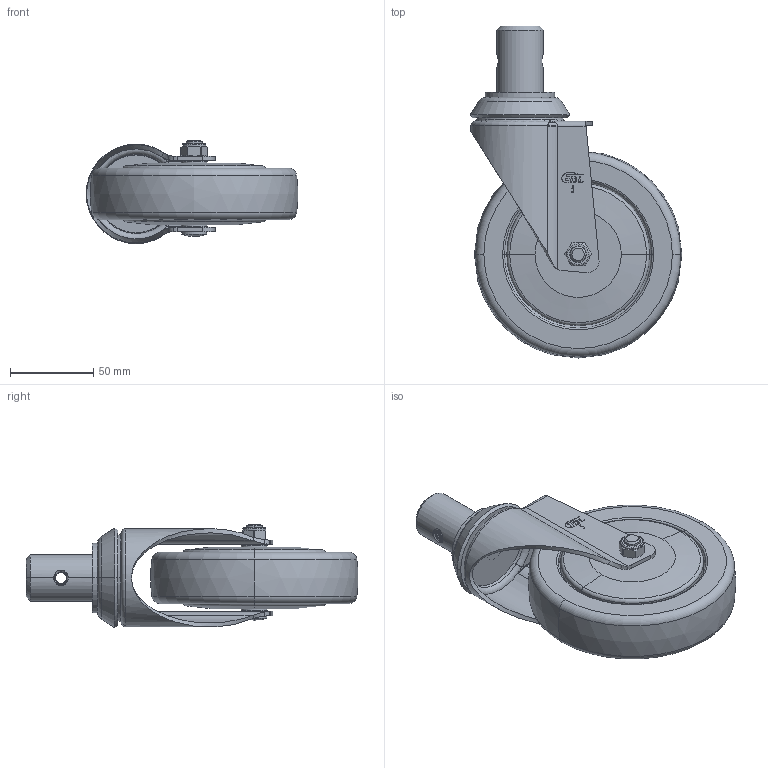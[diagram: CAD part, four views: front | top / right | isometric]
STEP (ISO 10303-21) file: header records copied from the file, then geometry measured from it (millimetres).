
FILE_DESCRIPTION((''),'2;1');
FILE_NAME('57255-575-77_ASM','2021-01-05T',('lenovo'),(''),'PRO/ENGINEER BY PARAMETRIC TECHNOLOGY CORPORATION, 2010280','PRO/ENGINEER BY PARAMETRIC TECHNOLOGY CORPORATION, 2010280','');
FILE_SCHEMA(('CONFIG_CONTROL_DESIGN'));
Length unit declared in the file: millimetre
Products named in the file (7): 5710-055; 5725-311; 5720-211; 575-77; 5710-020; 5710-031; 57255-575-77_ASM
Assembly tree (6 placements, depth 2):
  57255-575-77_ASM
    5710-055
    5725-311
    5720-211
    575-77
    5710-020
    5710-031
Bounding box: 127.43 x 199.93 x 62.25 mm (x, y, z)
Volume: 480948.5 mm3; surface area: 86131.1 mm2
Topology: 6 solids, 6 shells, 334 faces, 839 edges, 521 vertices
Faces by surface type: plane 106, cylinder 94, bspline 67, cone 34, torus 31, sphere 2
Entity records: 17252 total; most frequent: CARTESIAN_POINT 9635, ORIENTED_EDGE 1662, DIRECTION 1392, EDGE_CURVE 831, VERTEX_POINT 519, AXIS2_PLACEMENT_3D 510, VECTOR 372, LINE 372
